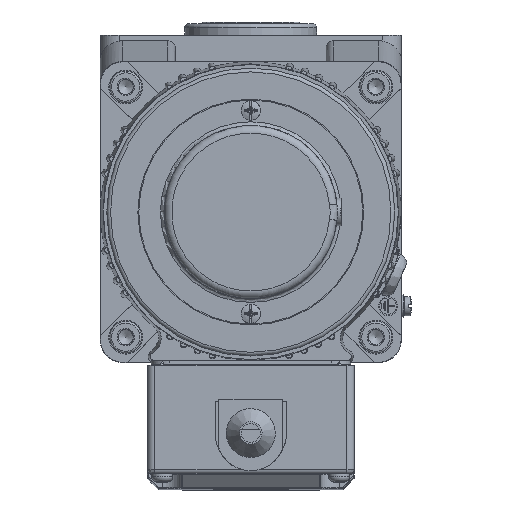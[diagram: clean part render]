
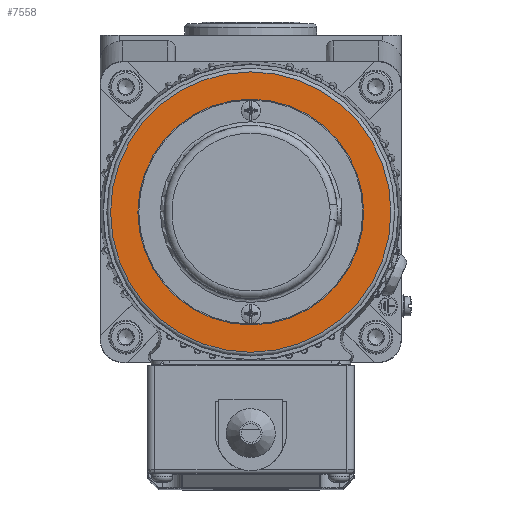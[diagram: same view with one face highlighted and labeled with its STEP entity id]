
A CAD part, left-side view. The second image highlights one B-rep face of the part: STEP entity #7558.
In plain terms, the highlighted planar face has unit normal (-1, 0, 0).
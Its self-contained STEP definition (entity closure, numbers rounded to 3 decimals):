
#6745=PLANE('',#27617);
#7558=ADVANCED_FACE('',(#9307,#9308),#6745,.F.);
#9307=FACE_BOUND('',#10038,.T.);
#9308=FACE_BOUND('',#10039,.T.);
#10038=EDGE_LOOP('',(#12449));
#10039=EDGE_LOOP('',(#12450));
#12449=ORIENTED_EDGE('',*,*,#22497,.T.);
#12450=ORIENTED_EDGE('',*,*,#22356,.F.);
#19797=VERTEX_POINT('',#38493);
#19878=VERTEX_POINT('',#39102);
#22356=EDGE_CURVE('',#19797,#19797,#26169,.T.);
#22497=EDGE_CURVE('',#19878,#19878,#26200,.T.);
#26169=CIRCLE('',#27535,30.);
#26200=CIRCLE('',#27616,37.25);
#27535=AXIS2_PLACEMENT_3D('',#38492,#30492,#30493);
#27616=AXIS2_PLACEMENT_3D('',#39101,#30709,#30710);
#27617=AXIS2_PLACEMENT_3D('',#39103,#30711,#30712);
#30492=DIRECTION('',(-1.,0.,0.));
#30493=DIRECTION('',(0.,0.,1.));
#30709=DIRECTION('',(-1.,0.,0.));
#30710=DIRECTION('',(0.,0.,-1.));
#30711=DIRECTION('',(1.,0.,0.));
#30712=DIRECTION('',(0.,0.,-1.));
#38492=CARTESIAN_POINT('',(-86.,40.,40.));
#38493=CARTESIAN_POINT('',(-86.,40.,70.));
#39101=CARTESIAN_POINT('',(-86.,40.,40.));
#39102=CARTESIAN_POINT('',(-86.,40.,2.75));
#39103=CARTESIAN_POINT('',(-86.,40.,78.25));
